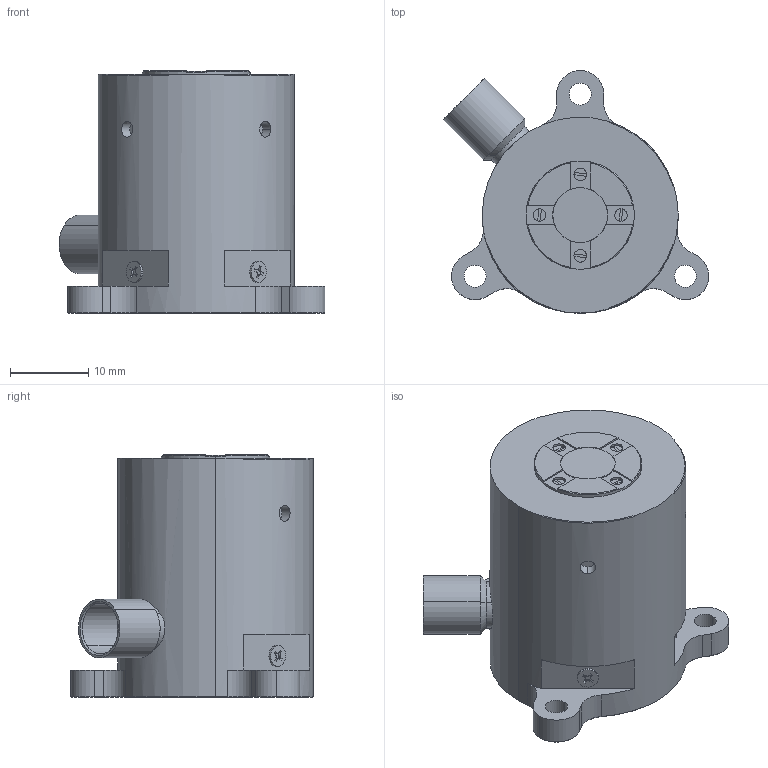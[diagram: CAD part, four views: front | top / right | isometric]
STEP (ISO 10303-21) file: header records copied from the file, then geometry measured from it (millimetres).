
FILE_DESCRIPTION (( 'STEP AP203' ), '1' );
FILE_NAME ('XD304.T2ÍâÐÎ³ß´ç-24.09.09.STEP', '2024-09-09T01:48:21', ( '' ), ( '' ), 'SwSTEP 2.0', 'SolidWorks 2016', '' );
FILE_SCHEMA (( 'CONFIG_CONTROL_DESIGN' ));
Length unit declared in the file: millimetre
Products named in the file (1): XD304.T2俋倛喜渡-24.09.09
Bounding box: 33.92 x 31 x 31 mm (x, y, z)
Volume: 15188.5 mm3; surface area: 4505.1 mm2
Topology: 2 solids, 3 shells, 259 faces, 645 edges, 417 vertices
Faces by surface type: plane 138, cylinder 88, cone 31, torus 2
Entity records: 8033 total; most frequent: CARTESIAN_POINT 1580, DIRECTION 1394, ORIENTED_EDGE 1286, EDGE_CURVE 643, AXIS2_PLACEMENT_3D 515, VERTEX_POINT 417, LINE 364, VECTOR 364
